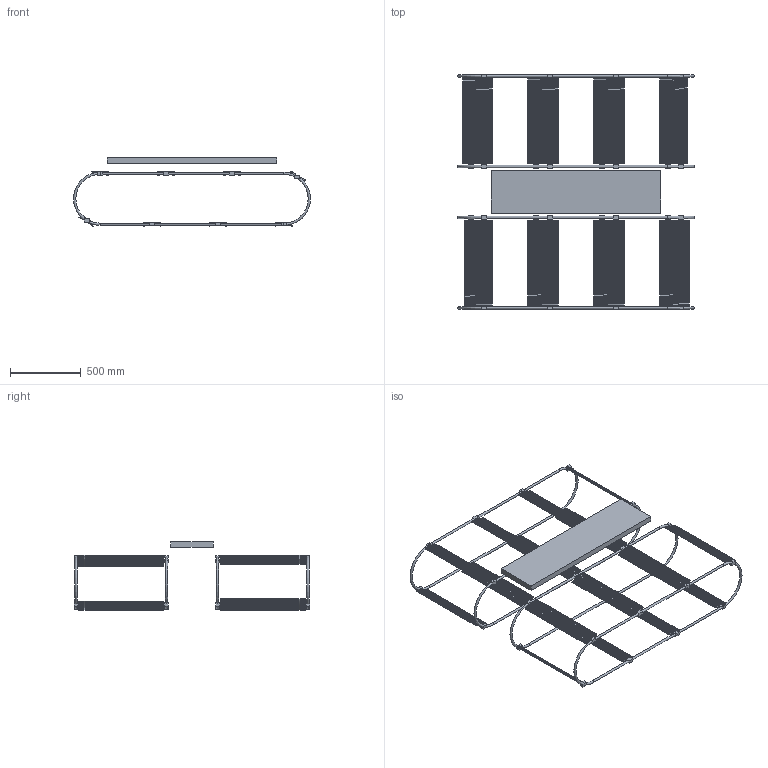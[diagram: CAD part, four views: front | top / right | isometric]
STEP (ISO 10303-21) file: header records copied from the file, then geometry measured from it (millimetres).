
FILE_DESCRIPTION(('FreeCAD Model'),'2;1');
FILE_NAME('Open CASCADE Shape Model','2026-10-29T08:02:56',('FreeCAD'),( 'FreeCAD'),'Open CASCADE STEP processor 7.8','FreeCAD','Unknown');
FILE_SCHEMA(('AUTOMOTIVE_DESIGN { 1 0 10303 214 1 1 1 1 }'));
Length unit declared in the file: millimetre
Products named in the file (1): Open CASCADE STEP translator 7.8 1
Bounding box: 1676 x 1664 x 483.37 mm (x, y, z)
Volume: 29866504.7 mm3; surface area: 4383554.4 mm2
Topology: 69 solids, 69 shells, 1894 faces, 5276 edges, 3512 vertices
Faces by surface type: plane 1862, cylinder 24, torus 8
Full cylindrical faces by diameter (mm): 8 x16, 16 x8
Entity records: 59318 total; most frequent: CARTESIAN_POINT 10683, ORIENTED_EDGE 10552, DIRECTION 9122, EDGE_CURVE 5276, LINE 5220, VECTOR 5220, VERTEX_POINT 3512, AXIS2_PLACEMENT_3D 1951
